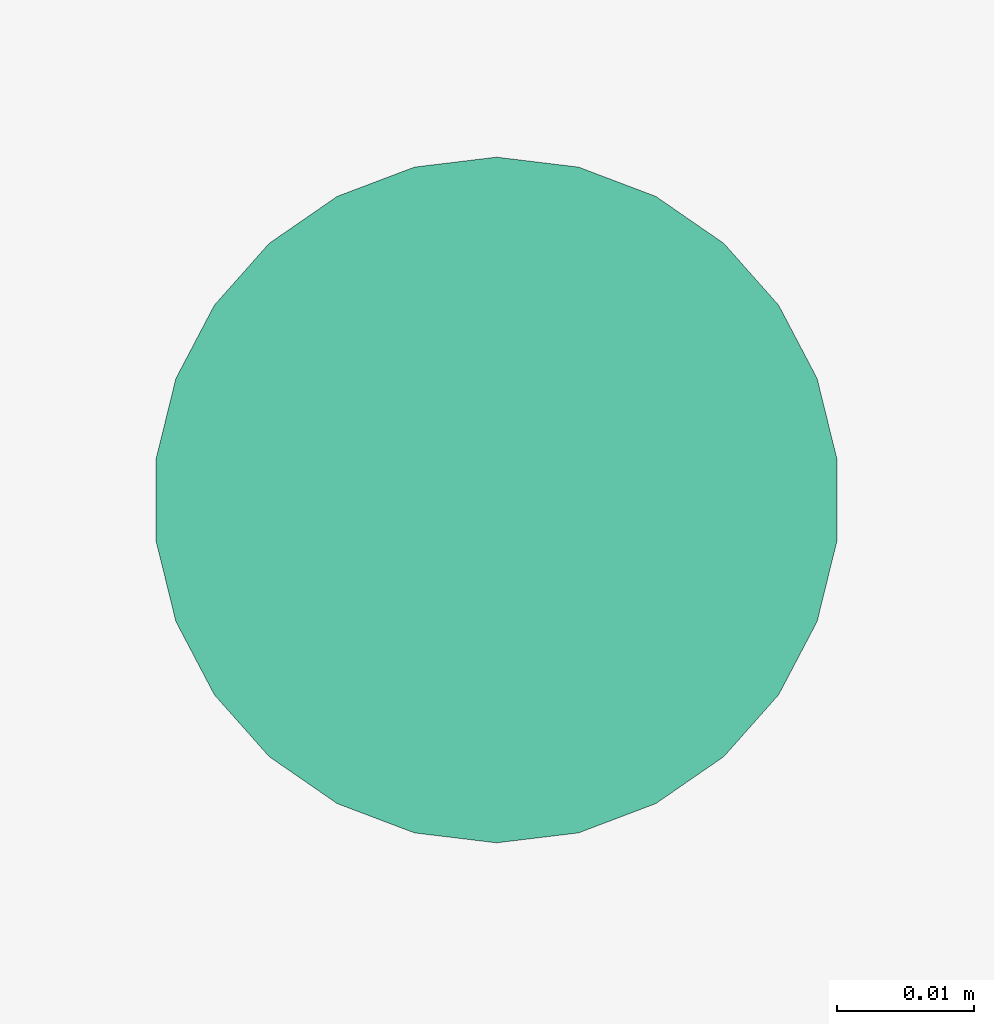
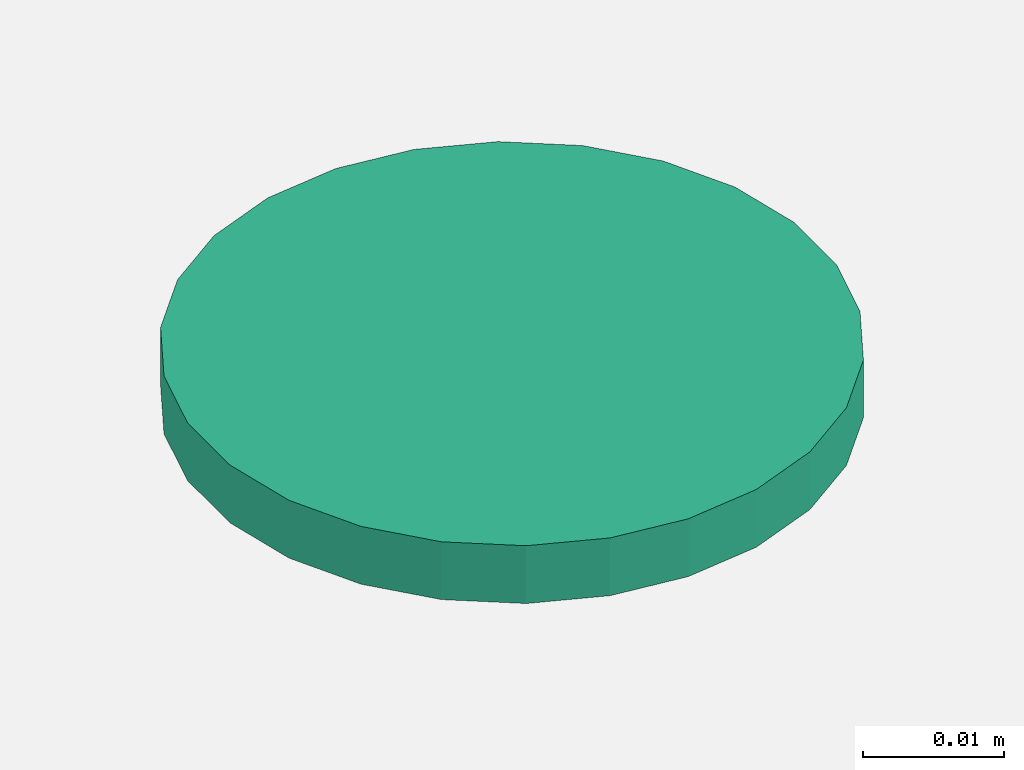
# One storey, part 114 of 137: 1 flow terminal.
"""IFC2X3 building model written with IfcOpenShell, lengths in centimetres."""

import ifcopenshell
import ifcopenshell.guid

model = None  # the IFC model being written
_history = None  # IfcOwnerHistory: only IFC2X3 demands one
_inside = {}  # id of a spatial element -> (the spatial element, [elements in it])
_under = {}  # id of a project, library or spatial element -> (it, [spatial elements below it])
_declared = {}  # id of a project -> (the project, [libraries it declares])
_typed = {}  # id of a type object -> (the type object, [elements of that type])
_made_of = {}  # id of a material, layer set ... -> (it, [elements and type objects made of it])


def new_model(schema):
    """Start an empty IFC model of exactly this schema.

    Asked for "IFC4X3", IfcOpenShell would pick the latest addendum, in which some entities
    have other attributes; the version numbers below select the first issue.
    IFC2X3 requires an IfcOwnerHistory on every rooted entity: one is made here for all.
    """
    global model, _history
    if schema == "IFC4X3":
        model = ifcopenshell.file(schema_version=(4, 3, 0, 0))
    else:
        model = ifcopenshell.file(schema=schema)
    _inside.clear()
    _under.clear()
    _declared.clear()
    _typed.clear()
    _made_of.clear()
    _history = None
    if model.schema == "IFC2X3":
        org = make("IfcOrganization", Name="unknown")
        user = make(
            "IfcPersonAndOrganization",
            ThePerson=make("IfcPerson", FamilyName="unknown"),
            TheOrganization=org,
        )
        app = make(
            "IfcApplication",
            ApplicationDeveloper=org,
            Version="unknown",
            ApplicationFullName="unknown",
            ApplicationIdentifier="unknown",
        )
        _history = make(
            "IfcOwnerHistory",
            OwningUser=user,
            OwningApplication=app,
            ChangeAction="ADDED",
            CreationDate=0,
        )
    return model


def make(cls, **values):
    """One entity of the class cls with the attributes given. An attribute that is None is left unset."""
    return model.create_entity(
        cls, **{name: value for name, value in values.items() if value is not None}
    )


def entity(cls, *values):
    """Any entity or typed value of the class cls, its attributes in the order of the schema. None: left unset."""
    e = model.create_entity(cls)
    for i, value in enumerate(values):
        if value is not None:
            e[i] = value
    return e


def rooted(cls, **values):
    """An entity with a GlobalId (a new one), such as an element, a storey or a relation."""
    return make(cls, GlobalId=ifcopenshell.guid.new(), OwnerHistory=_history, **values)


def si_unit(unit_type, name, prefix=None):
    """IfcSIUnit, for example si_unit("LENGTHUNIT", "METRE", prefix="MILLI")."""
    return make("IfcSIUnit", UnitType=unit_type, Prefix=prefix, Name=name)


def converted_unit(unit_type, name, factor, base, dimensions=None, offset=None):
    """IfcConversionBasedUnit, such as the inch: factor (a typed value) times the base unit."""
    return make(
        "IfcConversionBasedUnit"
        if offset is None
        else "IfcConversionBasedUnitWithOffset",
        ConversionOffset=offset,
        Dimensions=None
        if dimensions is None
        else entity("IfcDimensionalExponents", *dimensions),
        UnitType=unit_type,
        Name=name,
        ConversionFactor=make(
            "IfcMeasureWithUnit", ValueComponent=factor, UnitComponent=base
        ),
    )


def derived_unit(unit_type, elements):
    """IfcDerivedUnit: a product of units, each with its exponent."""
    return make(
        "IfcDerivedUnit",
        Elements=[
            make("IfcDerivedUnitElement", Unit=unit, Exponent=power)
            for unit, power in elements
        ],
        UnitType=unit_type,
    )


def assignment(units):
    """IfcUnitAssignment: the units of a project."""
    return None if units is None else make("IfcUnitAssignment", Units=units)


def point(xyz):
    """IfcCartesianPoint."""
    return None if xyz is None else make("IfcCartesianPoint", Coordinates=xyz)


def direction(xyz):
    """IfcDirection."""
    return None if xyz is None else make("IfcDirection", DirectionRatios=xyz)


def frame(location, z_axis=None, x_axis=None):
    """IfcAxis2Placement3D, a coordinate frame: its origin and axes. An axis left out is left unset."""
    return make(
        "IfcAxis2Placement3D",
        Location=point(location),
        Axis=direction(z_axis),
        RefDirection=direction(x_axis),
    )


def frame_2d(location, x_axis=None):
    """IfcAxis2Placement2D, a coordinate frame in the plane: its origin and x axis."""
    return make(
        "IfcAxis2Placement2D", Location=point(location), RefDirection=direction(x_axis)
    )


def origin():
    """The frame at (0, 0, 0) with its axes left unset."""
    return frame((0.0, 0.0, 0.0))


def place(relative_to, where):
    """IfcLocalPlacement: puts the frame where relative to a parent placement (None: the world)."""
    return make(
        "IfcLocalPlacement", PlacementRelTo=relative_to, RelativePlacement=where
    )


def context(
    kind, dimensions, precision=None, world=None, true_north=None, identifier=None
):
    """IfcGeometricRepresentationContext, for example the 3D "Model" context."""
    return make(
        "IfcGeometricRepresentationContext",
        ContextIdentifier=identifier,
        ContextType=kind,
        CoordinateSpaceDimension=dimensions,
        Precision=precision,
        WorldCoordinateSystem=world,
        TrueNorth=true_north,
    )


def subcontext(parent, identifier, kind, view, scale=None):
    """IfcGeometricRepresentationSubContext, for example "Body" below "Model"."""
    return make(
        "IfcGeometricRepresentationSubContext",
        ContextIdentifier=identifier,
        ContextType=kind,
        ParentContext=parent,
        TargetScale=scale,
        TargetView=view,
    )


def project(units=None, contexts=None):
    """IfcProject with its units and contexts."""
    return rooted(
        "IfcProject",
        Name="project",
        RepresentationContexts=contexts,
        UnitsInContext=assignment(units),
    )


def spatial(cls, under=None, at=None, **own):
    """A site, building, storey or space (cls), placed at a placement, below another one or the project."""
    s = rooted(cls, ObjectPlacement=at, **own)
    if under is not None:
        _under.setdefault(under.id(), (under, []))[1].append(s)
    return s


def profile(cls, at=None, kind="AREA", **sizes):
    """A parametric profile (cls). Its sizes go by their IFC names, for example OverallWidth=200.0."""
    return make(cls, ProfileType=kind, Position=at, **sizes)


def circle(**sizes):
    """IfcCircleProfileDef."""
    return profile("IfcCircleProfileDef", **sizes)


def extrude(swept, where, along, depth):
    """IfcExtrudedAreaSolid: the profile swept, set in the frame where, extruded along a direction by depth."""
    return make(
        "IfcExtrudedAreaSolid",
        SweptArea=swept,
        Position=where,
        ExtrudedDirection=direction(along),
        Depth=depth,
    )


def shape(context_of_items, identifier, shape_type, items):
    """IfcShapeRepresentation: the items that make up one representation, for example the "Body"."""
    return make(
        "IfcShapeRepresentation",
        ContextOfItems=context_of_items,
        RepresentationIdentifier=identifier,
        RepresentationType=shape_type,
        Items=items,
    )


def source(mapping_origin, context_of_items, identifier, shape_type, items):
    """IfcRepresentationMap: a shape defined once, which mapped items show again and again."""
    return make(
        "IfcRepresentationMap",
        MappingOrigin=mapping_origin,
        MappedRepresentation=shape(context_of_items, identifier, shape_type, items),
    )


def transform(
    local_origin,
    x_axis=None,
    y_axis=None,
    z_axis=None,
    scale=None,
    scale2=None,
    scale3=None,
    uniform=True,
):
    """IfcCartesianTransformationOperator3D, or its non-uniform kind. x_axis, y_axis, z_axis: its Axis1, 2, 3."""
    if uniform:
        return make(
            "IfcCartesianTransformationOperator3D",
            Axis1=direction(x_axis),
            Axis2=direction(y_axis),
            LocalOrigin=point(local_origin),
            Scale=scale,
            Axis3=direction(z_axis),
        )
    return make(
        "IfcCartesianTransformationOperator3DnonUniform",
        Axis1=direction(x_axis),
        Axis2=direction(y_axis),
        LocalOrigin=point(local_origin),
        Scale=scale,
        Axis3=direction(z_axis),
        Scale2=scale2,
        Scale3=scale3,
    )


def mapped(mapping_source, mapping_target):
    """IfcMappedItem: shows the shape of a source again, moved by a transform."""
    return make(
        "IfcMappedItem", MappingSource=mapping_source, MappingTarget=mapping_target
    )


def made_of(thing, what):
    """Note that an element or type object is made of a material, layer set ...; save() writes the relation."""
    if what is not None:
        _made_of.setdefault(what.id(), (what, []))[1].append(thing)
    return thing


def element(
    cls,
    number,
    at=None,
    inside=None,
    cuts=None,
    type_object=None,
    material=None,
    context=None,
    identifier="Body",
    shape_type=None,
    held_by="IfcProductDefinitionShape",
    body=None,
    shapes=None,
    **own,
):
    """One element of the class cls, such as IfcWall. Its Tag is "e" and its number.

    at: its placement. inside: the storey or other place that contains it. cuts: it is an
    opening in that element (IfcRelVoidsElement). A single representation is given by context,
    identifier, shape_type and body (its items); several are given by shapes. held_by: the class
    of the entity that holds the representations. save() writes the other relations.
    """
    e = rooted(cls, Tag="e%d" % number, ObjectPlacement=at, **own)
    if body is not None:
        shapes = [shape(context, identifier, shape_type, body)]
    if shapes is not None:
        e.Representation = make(held_by, Representations=shapes)
    if inside is not None:
        _inside.setdefault(inside.id(), (inside, []))[1].append(e)
    if cuts is not None:
        rooted(
            "IfcRelVoidsElement", RelatingBuildingElement=cuts, RelatedOpeningElement=e
        )
    if type_object is not None:
        _typed.setdefault(type_object.id(), (type_object, []))[1].append(e)
    return made_of(e, material)


def aggregate(whole, parts):
    """IfcRelAggregates: a whole, such as a stair, and the parts it consists of."""
    return rooted("IfcRelAggregates", RelatingObject=whole, RelatedObjects=parts)


def save(model, path):
    """Write the relations noted so far, then the file.

    IfcRelAggregates (storeys below a building ...), IfcRelContainedInSpatialStructure (elements
    in a storey), IfcRelDefinesByType, IfcRelAssociatesMaterial and IfcRelDeclares: one each for
    every whole, place, type object, material and project.
    """
    for whole, parts in _under.values():
        aggregate(whole, parts)
    for where, things in _inside.values():
        rooted(
            "IfcRelContainedInSpatialStructure",
            RelatedElements=things,
            RelatingStructure=where,
        )
    for kind, things in _typed.values():
        rooted("IfcRelDefinesByType", RelatedObjects=things, RelatingType=kind)
    for what, things in _made_of.values():
        rooted("IfcRelAssociatesMaterial", RelatedObjects=things, RelatingMaterial=what)
    for by, libraries in _declared.values():
        rooted("IfcRelDeclares", RelatingContext=by, RelatedDefinitions=libraries)
    model.write(path)


model = new_model("IFC2X3")

# Units and contexts
model_context = context("Model", 3, precision=0.001, world=origin(), true_north=direction((6.12303176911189e-17, 1.0)))
body_context = subcontext(model_context, "Body", "Model", "MODEL_VIEW")
ifc_project = project(units=[si_unit("LENGTHUNIT", "METRE", prefix="CENTI"), si_unit("AREAUNIT", "SQUARE_METRE"), si_unit("VOLUMEUNIT", "CUBIC_METRE"), converted_unit("PLANEANGLEUNIT", "DEGREE", entity("IfcRatioMeasure", 0.0174532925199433), si_unit("PLANEANGLEUNIT", "RADIAN"), dimensions=[0, 0, 0, 0, 0, 0, 0]), si_unit("MASSUNIT", "GRAM", prefix="KILO"), si_unit("TIMEUNIT", "SECOND"), si_unit("FREQUENCYUNIT", "HERTZ"), si_unit("THERMODYNAMICTEMPERATUREUNIT", "DEGREE_CELSIUS"), derived_unit("THERMALTRANSMITTANCEUNIT", [(si_unit("MASSUNIT", "GRAM", prefix="KILO"), 1), (si_unit("THERMODYNAMICTEMPERATUREUNIT", "KELVIN"), -1), (si_unit("TIMEUNIT", "SECOND"), -3)]), derived_unit("VOLUMETRICFLOWRATEUNIT", [(si_unit("LENGTHUNIT", "METRE"), 3), (si_unit("TIMEUNIT", "SECOND"), -1)]), si_unit("ELECTRICCURRENTUNIT", "AMPERE"), si_unit("ELECTRICVOLTAGEUNIT", "VOLT"), si_unit("POWERUNIT", "WATT"), si_unit("FORCEUNIT", "NEWTON", prefix="KILO"), si_unit("ILLUMINANCEUNIT", "LUX"), si_unit("LUMINOUSFLUXUNIT", "LUMEN"), si_unit("LUMINOUSINTENSITYUNIT", "CANDELA"), derived_unit("USERDEFINED", [(si_unit("MASSUNIT", "GRAM", prefix="KILO"), -1), (si_unit("LENGTHUNIT", "METRE"), -2), (si_unit("TIMEUNIT", "SECOND"), 3), (si_unit("LUMINOUSFLUXUNIT", "LUMEN"), 1)]), derived_unit("LINEARVELOCITYUNIT", [(si_unit("LENGTHUNIT", "METRE"), 1), (si_unit("TIMEUNIT", "SECOND"), -1)]), si_unit("PRESSUREUNIT", "PASCAL"), derived_unit("USERDEFINED", [(si_unit("LENGTHUNIT", "METRE"), -2), (si_unit("MASSUNIT", "GRAM", prefix="KILO"), 1), (si_unit("TIMEUNIT", "SECOND"), -2)])], contexts=[model_context])

# Site, building, storey, space
site_placement = place(None, frame((8.62739174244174, -249.285249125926, 0.0)))
site = spatial("IfcSite", under=ifc_project, at=site_placement, Name="Default", CompositionType="ELEMENT")
building_placement = place(site_placement, origin())
building = spatial("IfcBuilding", under=site, at=building_placement, CompositionType="ELEMENT")
storey_placement = place(building_placement, origin())
storey = spatial("IfcBuildingStorey", under=building, at=storey_placement, Name="RDC", CompositionType="ELEMENT", Elevation=-8.82465566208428e-11)
space_placement = place(storey_placement, origin())
space = spatial("IfcSpace", under=storey, at=space_placement, Name="099", CompositionType="ELEMENT", InteriorOrExteriorSpace="INTERNAL")

# Flow terminal
shared_shape = source(origin(), body_context, "Body", "SweptSolid", [
    extrude(circle(Radius=2.5, at=frame_2d((0.0, -3.38395977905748e-15), x_axis=(1.0, 0.0))), frame((20.5000000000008, -20.0, 0.0)), (0.0, 0.0, 1.0), 0.5),
])
flow_terminal_placement = place(space_placement, frame((1350.90482780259, 2607.6611741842, 0.0), z_axis=(0.0, 0.0, 1.0), x_axis=(0.0, 1.0, 0.0)))
element("IfcFlowTerminal", 1, at=flow_terminal_placement, inside=space, Name="Receveur de douche:1", ObjectType="1", context=body_context, shape_type="MappedRepresentation", body=[
    mapped(shared_shape, transform((0.0, 0.0, 0.0), scale=1.0)),
])

save(model, "model.ifc")
